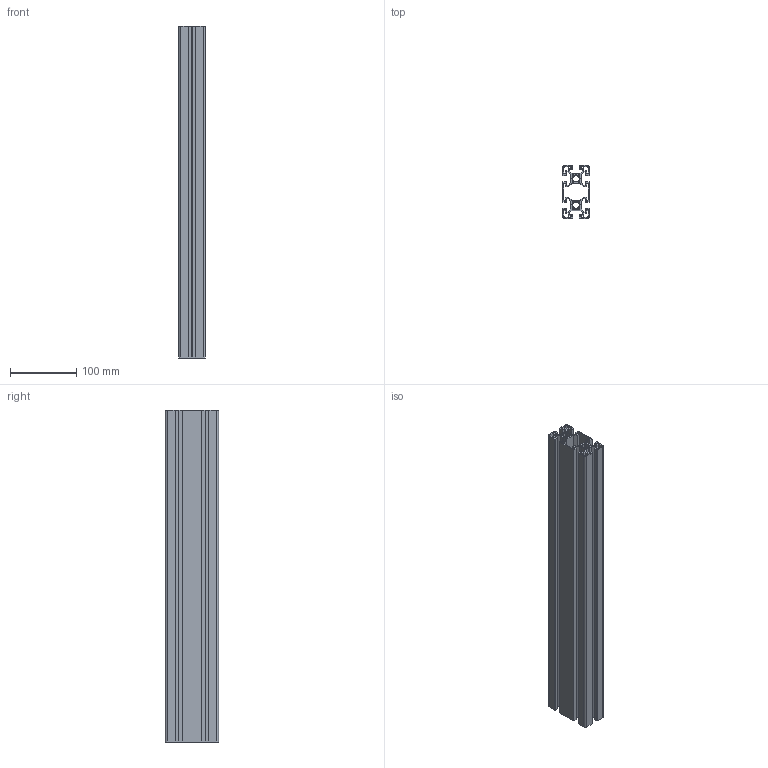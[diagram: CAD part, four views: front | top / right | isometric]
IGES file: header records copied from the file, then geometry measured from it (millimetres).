
Start section: SolidWorks IGES file using analytic representation for surfaces
Global section: file name: C:\Documents and Settings\Administrator\デスクトップ\指定保存後3回目\SolidWorks\SF\SF40・45\Frame\SFF-C484.IGS; native system: SolidWorks 2006 by SolidWorks Corporation; preprocessor: SolidWorks 2006 by SolidWorks Corporation; author: Administrator; date: 061213.113538; units: millimetre
Bounding box: 40 x 80 x 500 mm (x, y, z)
Surface area: 452596.4 mm2 (no closed solid volume)
Topology: 0 solids, 0 shells, 320 faces, 3666 edges, 4620 vertices
Faces by surface type: bspline 184, revolution 136
